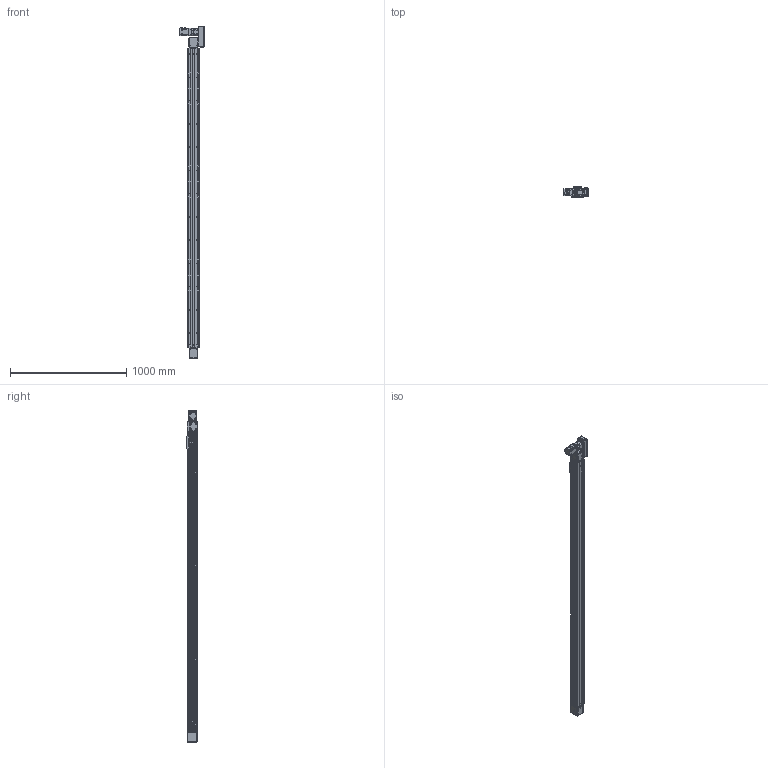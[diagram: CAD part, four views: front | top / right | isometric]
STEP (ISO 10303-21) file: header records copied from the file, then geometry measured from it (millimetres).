
FILE_DESCRIPTION(/* description */ ('MANUFACTURE'),/* implementation_level */ '2;1');
FILE_NAME(/* name */ '\\192.168.0.160\disk1\HAN SHIN Master\B-설계부문\C-표준\B-2024년\BC02-표준도면\+로봇 개선표준도면\홈페이지 표준 도면\홈페이지 최종 작업 폴더\3D\HSB\HSB75\R\HSB75-R2G-N-2400-L.stp',/* time_stamp */ '2025-04-30T14:09:29+09:00',/* author */ ('user'),/* organization */ (''),/* preprocessor_version */ 'ST-DEVELOPER v18.1',/* originating_system */ 'Autodesk Inventor 2022',/* authorisation */ 'LIP');
FILE_SCHEMA (('CONFIG_CONTROL_DESIGN'));
Products named in the file (37): HSB75-R2G-N-0500-L; HSB75 BASE; HSB75 TABLE; HSB75 FRONT HOUSING (Connecting); HSB75 FRONT COVER; UPCOVER; HS75 SIDE COVER; HSB75 REAR HOUSING; HSB75 REAR PULLEY; HSB55 REAR SHAFT; HSB55 TENSION PLATE; 6002ZZ; 6002ZZ Outer ring; 6002ZZ Shield1; 6002ZZ Inner ring; 6002ZZ Ball; 6002ZZ Shield2; HG90STOPPER - 27L; HSB55 ACRYL COVER; HSB75 ACRYL COVER-END; PGX62-H-1_3; hg-kr23_; MOTOR PLATE-200W(MITSUBISHI); HR75-LR-BELT COVER(200W); HR75-BELT COVER-COVER; HR75-BELT COVER-COVER2; HR65-BELT COVER-COVER3; HS75 SENSOR DOG-1; NIPPLE CAP(신규); hsr_ftht_A-M6F_grease_nipple_joint; HSB160 BEARING OVER; HSB75 END COVER; HSB75 MOTOR PLATE-N_대칭도; HSB160 SHAFT-1; C-E6304ZZ; SENSOR BRK(EE-SX674A); EE_SX674A
Assembly tree (63 placements, depth 3):
  HSB75-R2G-N-0500-L
    HSB75 BASE
    HSB75 TABLE
    HSB75 FRONT HOUSING (Connecting)
    HSB75 FRONT COVER  x2
    UPCOVER
    HS75 SIDE COVER  x2
    HSB75 REAR HOUSING
    HSB75 REAR PULLEY
    HSB55 REAR SHAFT
    HSB55 TENSION PLATE  x2
    6002ZZ  x2
      6002ZZ Outer ring
      6002ZZ Shield1
      6002ZZ Inner ring
      6002ZZ Ball
      6002ZZ Shield2
    HG90STOPPER - 27L  x2
    HSB55 ACRYL COVER  x3
    HSB75 ACRYL COVER-END
    PGX62-H-1_3
    hg-kr23_
    MOTOR PLATE-200W(MITSUBISHI)
    HR75-LR-BELT COVER(200W)
    HR75-BELT COVER-COVER
    HR75-BELT COVER-COVER2
    HR65-BELT COVER-COVER3  x2
    EE_SX674A  x3
    SENSOR BRK(EE-SX674A)  x3
    HS75 SENSOR DOG-1
    NIPPLE CAP(신규)  x2
    hsr_ftht_A-M6F_grease_nipple_joint  x2
    HSB160 BEARING OVER
    HSB75 END COVER
    HSB75 MOTOR PLATE-N_대칭도
    HSB160 SHAFT-1
    C-E6304ZZ  x2
Bounding box: 206.6 x 89 x 2856 mm (x, y, z)
Volume: 7260021.2 mm3; surface area: 2828207.1 mm2
Topology: 95 solids, 95 shells, 5430 faces, 15071 edges, 9911 vertices
Faces by surface type: plane 3911, cylinder 1105, cone 308, torus 45, sphere 42, bspline 19
Full cylindrical faces by diameter (mm): 2 x12, 2.013 x4, 2.459 x64, 3 x10, 3.242 x34, 3.3 x5, 3.4 x20, 3.5 x22, 4 x1, 4.134 x65, 4.2 x10, 4.343 x2, 4.5 x30, 4.917 x32, 5 x28, 5.5 x40, 5.6 x10, 5.8 x4, 5.9 x8, 6 x6, 6.5 x4, 7 x1, 8 x9, 8.5 x4, 9 x12, 9.5 x24, 12 x2, 14 x1, 14.2 x1, 14.3 x2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
Entity records: 147302 total; most frequent: CARTESIAN_POINT 29065, ORIENTED_EDGE 24254, DIRECTION 23497, EDGE_CURVE 12127, LINE 9027, VECTOR 9027, VERTEX_POINT 8040, AXIS2_PLACEMENT_3D 7235
